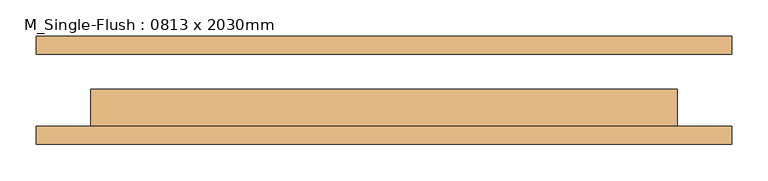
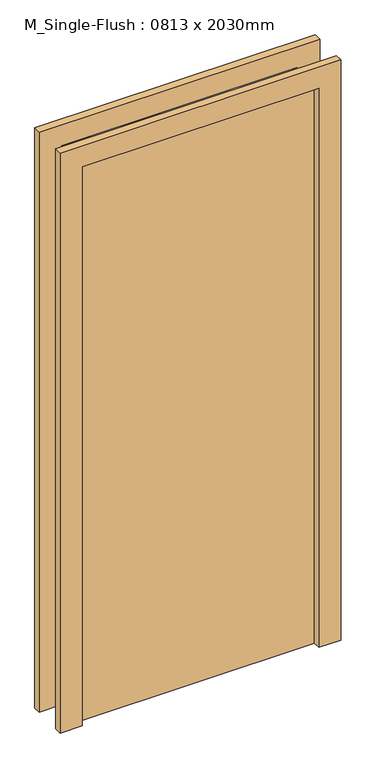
"""IFC4 building model written with IfcOpenShell, lengths in millimetres: door geometry, M_Single-Flush : 0813 x 2030mm."""

from ifc_helpers import new_model, si_unit, frame, origin, origin_with_axes, place, context, project, spatial, polyline, outline, extrude, source, transform, mapped, element, save


def m_single_flush_0813_x_2030mm_0e9c7165(model_context):
    return source(origin(), model_context, "Body", "SweptSolid", [
        extrude(outline(polyline([(2106.0, -482.5), (0.0, -482.5), (0.0, -406.5), (2030.0, -406.5), (2030.0, 406.5), (0.0, 406.5), (0.0, 482.5), (2106.0, 482.5), (2106.0, -482.5)])), frame((0.0, -75.0, 0.0), z_axis=(0.0, 1.0, 0.0), x_axis=(0.0, 0.0, 1.0)), (0.0, 0.0, 1.0), 25.0),
        extrude(outline(polyline([(2106.0, 482.5), (2106.0, -482.5), (0.0, -482.5), (0.0, -406.5), (2030.0, -406.5), (2030.0, 406.5), (0.0, 406.5), (0.0, 482.5), (2106.0, 482.5)])), frame((0.0, 50.0, 0.0), z_axis=(0.0, 1.0, 0.0), x_axis=(0.0, 0.0, 1.0)), (0.0, 0.0, 1.0), 25.0),
        extrude(outline(polyline([(406.5, 1.0), (406.5, -50.0), (-406.5, -50.0), (-406.5, 1.0), (406.5, 1.0)])), origin_with_axes(), (0.0, 0.0, 1.0), 2030.0),
    ])


if __name__ == "__main__":
    model = new_model("IFC4")
    model_context = context("Model", 3, world=origin())
    ifc_project = project(units=[si_unit("LENGTHUNIT", "METRE", prefix="MILLI")], contexts=[model_context])
    site = spatial("IfcSite", under=ifc_project)
    building = spatial("IfcBuilding", under=site)
    placement = place(None, origin())
    m_single_flush_0813_x_2030mm_shape = m_single_flush_0813_x_2030mm_0e9c7165(model_context)
    element("IfcDoor", 1, ObjectType="M_Single-Flush : 0813 x 2030mm", at=placement, inside=building, context=model_context, shape_type="MappedRepresentation", body=[
        mapped(m_single_flush_0813_x_2030mm_shape, transform((0.0, 0.0, 0.0), x_axis=(1.0, 0.0, 0.0), y_axis=(0.0, 1.0, 0.0), z_axis=(0.0, 0.0, 1.0))),
    ])
    save(model, "model.ifc")
